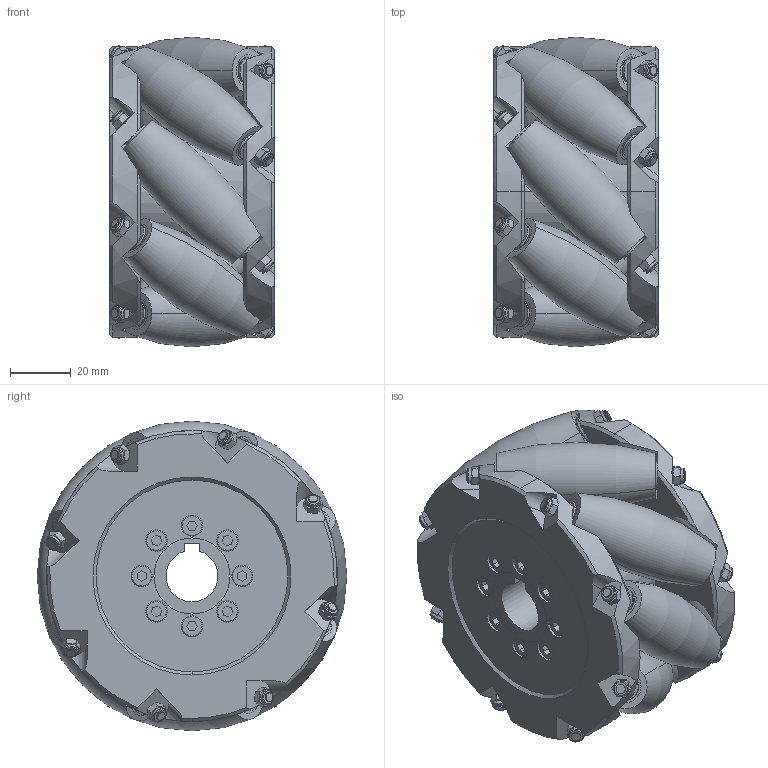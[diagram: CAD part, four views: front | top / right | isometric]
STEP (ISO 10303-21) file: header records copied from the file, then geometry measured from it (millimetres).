
FILE_DESCRIPTION (( 'STEP AP214' ), '1' );
FILE_NAME ('MX100-L.STEP', '2019-01-07T12:37:08', ( 'Windows 蚚誧' ), ( '' ), 'SwSTEP 2.0', 'SolidWorks 2018', '' );
FILE_SCHEMA (( 'AUTOMOTIVE_DESIGN' ));
Length unit declared in the file: millimetre
Products named in the file (10): M4x0.8菜え; MX100-L; NM100A-深沟球轴承(684ZZ); NM100A-M0.1-3-1; NM100AL-M0.1-1; NM100AL-M0.1-2; NM100A-滅侂蹟譫M3; NM100A-蚾饜; NM100A-囀鞠褒蹟佪(M4X20); NM100AL-M0.1-4
Assembly tree (91 placements, depth 2):
  NM100A-蚾饜
    NM100AL-M0.1-2
    NM100AL-M0.1-1  x2
    MX100-L  x8
    NM100A-M0.1-3-1  x8
    NM100A-深沟球轴承(684ZZ)  x16
    NM100AL-M0.1-4  x8
    M4x0.8菜え  x16
    NM100A-滅侂蹟譫M3  x16
    NM100A-囀鞠褒蹟佪(M4X20)  x16
Bounding box: 54 x 101.6 x 101.6 mm (x, y, z)
Volume: 269382.8 mm3; surface area: 148421.1 mm2
Topology: 235 solids, 235 shells, 2152 faces, 4978 edges, 3124 vertices
Faces by surface type: cylinder 655, plane 557, torus 400, cone 284, sphere 256
Entity records: 10099 total; most frequent: CARTESIAN_POINT 1943, DIRECTION 1746, ORIENTED_EDGE 1392, AXIS2_PLACEMENT_3D 759, EDGE_CURVE 696, VERTEX_POINT 452, EDGE_LOOP 378, CIRCLE 368
